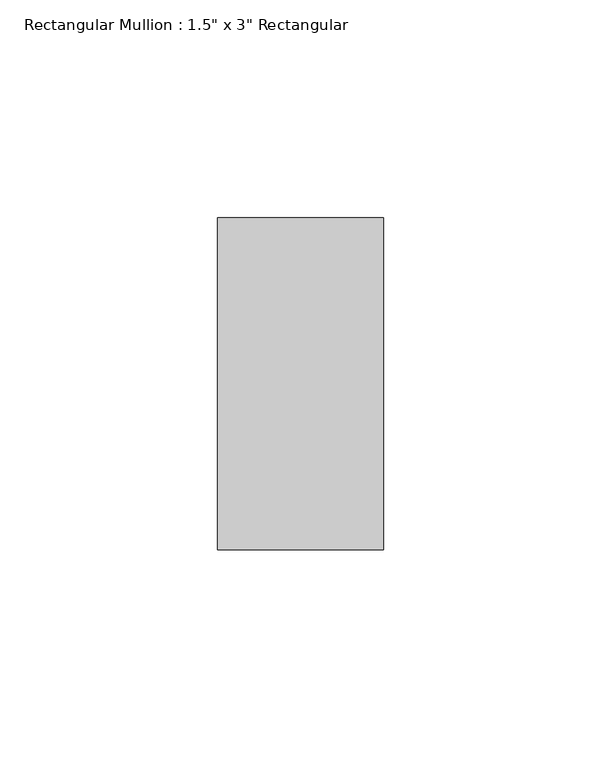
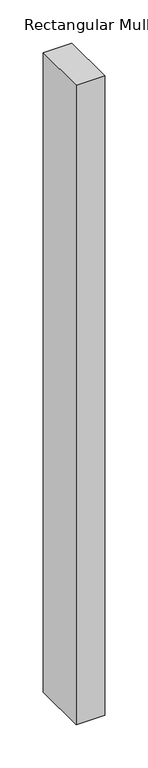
"""IFC4 building model written with IfcOpenShell, lengths in millimetres: member geometry."""

from ifc_helpers import new_model, si_unit, frame, origin, place, context, project, spatial, polyline, outline, extrude, source, transform, mapped, element, save


def member_f87ed6db(model_context):
    return source(origin(), model_context, "Body", "SweptSolid", [
        extrude(outline(polyline([(19.05, 38.1), (19.05, -38.1), (-19.05, -38.1), (-19.05, 38.1), (19.05, 38.1)])), frame((0.0, 0.0, -902.914556), z_axis=(0.0, 0.0, 1.0), x_axis=(1.0, 0.0, 0.0)), (0.0, 0.0, 1.0), 902.914556),
    ])


if __name__ == "__main__":
    model = new_model("IFC4")
    model_context = context("Model", 3, world=origin())
    ifc_project = project(units=[si_unit("LENGTHUNIT", "METRE", prefix="MILLI")], contexts=[model_context])
    site = spatial("IfcSite", under=ifc_project)
    building = spatial("IfcBuilding", under=site)
    placement = place(None, origin())
    member_shape = member_f87ed6db(model_context)
    element("IfcMember", 1, ObjectType="Rectangular Mullion : 1.5\" x 3\" Rectangular", at=placement, inside=building, context=model_context, shape_type="MappedRepresentation", body=[
        mapped(member_shape, transform((0.0, 0.0, 0.0), x_axis=(1.0, 0.0, 0.0), y_axis=(0.0, 1.0, 0.0), z_axis=(0.0, 0.0, 1.0))),
    ])
    save(model, "model.ifc")
